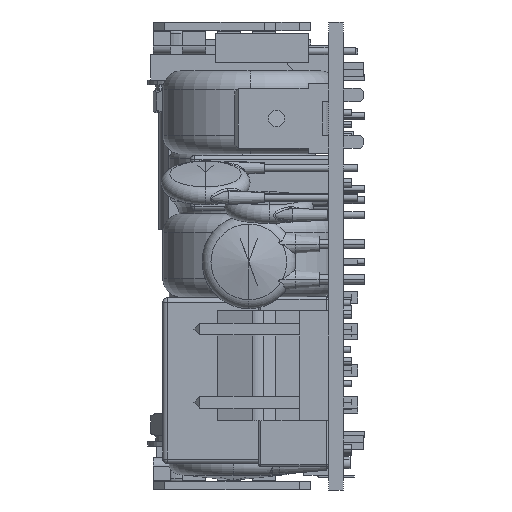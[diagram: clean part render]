
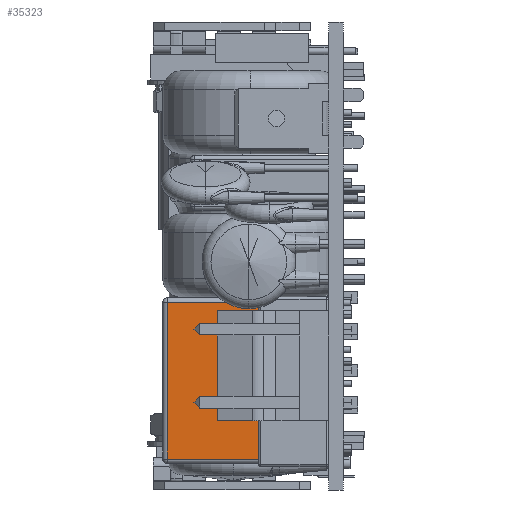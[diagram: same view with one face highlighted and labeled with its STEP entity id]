
A CAD part, left-side view. The second image highlights one B-rep face of the part: STEP entity #35323.
In plain terms, the highlighted planar face has unit normal (-1, 0, 0).
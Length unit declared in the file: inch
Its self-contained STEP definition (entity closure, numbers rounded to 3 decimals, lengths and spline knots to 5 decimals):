
#23874 = CARTESIAN_POINT ( 'NONE',  ( -0.1378, 0., 0.33465 ) ) ;
#24402 = CARTESIAN_POINT ( 'NONE',  ( -0.1378, 0., -0.33465 ) ) ;
#24415 = DIRECTION ( 'NONE',  ( 0., 0., 1. ) ) ;
#24417 = VECTOR ( 'NONE', #24415, 39.37008 ) ;
#24418 = CARTESIAN_POINT ( 'NONE',  ( -0.1378, 0., -0.35433 ) ) ;
#24419 = LINE ( 'NONE', #24418, #24417 ) ;
#24644 = CARTESIAN_POINT ( 'NONE',  ( -0.1378, 0.68898, 0.33465 ) ) ;
#24686 = DIRECTION ( 'NONE',  ( 0., 1., 0. ) ) ;
#24687 = VECTOR ( 'NONE', #24686, 39.37008 ) ;
#24696 = CARTESIAN_POINT ( 'NONE',  ( -0.1378, 0.70866, 0.33465 ) ) ;
#24698 = LINE ( 'NONE', #24696, #24687 ) ;
#24986 = FACE_OUTER_BOUND ( 'NONE', #35335, .T. ) ;
#25002 = PLANE ( 'NONE',  #25056 ) ;
#25008 = DIRECTION ( 'NONE',  ( 0., -1., 0. ) ) ;
#25009 = VECTOR ( 'NONE', #25008, 39.37008 ) ;
#25011 = CARTESIAN_POINT ( 'NONE',  ( -0.1378, 0.70866, -0.33465 ) ) ;
#25013 = LINE ( 'NONE', #25011, #25009 ) ;
#25044 = CARTESIAN_POINT ( 'NONE',  ( -0.1378, 0.68898, -0.35433 ) ) ;
#25056 = AXIS2_PLACEMENT_3D ( 'NONE', #25145, #25144, #25142 ) ;
#25130 = DIRECTION ( 'NONE',  ( 0., 0., -1. ) ) ;
#25131 = VECTOR ( 'NONE', #25130, 39.37008 ) ;
#25142 = DIRECTION ( 'NONE',  ( 0., 0., -1. ) ) ;
#25144 = DIRECTION ( 'NONE',  ( 1., 0., 0. ) ) ;
#25145 = CARTESIAN_POINT ( 'NONE',  ( -0.1378, 0.70866, -0.35433 ) ) ;
#25147 = LINE ( 'NONE', #25044, #25131 ) ;
#33004 = CARTESIAN_POINT ( 'NONE',  ( -0.1378, 0.68898, -0.33465 ) ) ;
#35083 = VERTEX_POINT ( 'NONE', #23874 ) ;
#35161 = EDGE_CURVE ( 'NONE', #35169, #35083, #24419, .T. ) ;
#35169 = VERTEX_POINT ( 'NONE', #24402 ) ;
#35225 = VERTEX_POINT ( 'NONE', #24644 ) ;
#35239 = EDGE_CURVE ( 'NONE', #35083, #35225, #24698, .T. ) ;
#35283 = ORIENTED_EDGE ( 'NONE', *, *, #35286, .T. ) ;
#35286 = EDGE_CURVE ( 'NONE', #37599, #35169, #25013, .T. ) ;
#35322 = ORIENTED_EDGE ( 'NONE', *, *, #35239, .T. ) ;
#35323 = ADVANCED_FACE ( 'NONE', ( #24986 ), #25002, .F. ) ;
#35325 = ORIENTED_EDGE ( 'NONE', *, *, #35161, .T. ) ;
#35326 = EDGE_CURVE ( 'NONE', #35225, #37599, #25147, .T. ) ;
#35327 = ORIENTED_EDGE ( 'NONE', *, *, #35326, .T. ) ;
#35335 = EDGE_LOOP ( 'NONE', ( #35325, #35322, #35327, #35283 ) ) ;
#37599 = VERTEX_POINT ( 'NONE', #33004 ) ;
